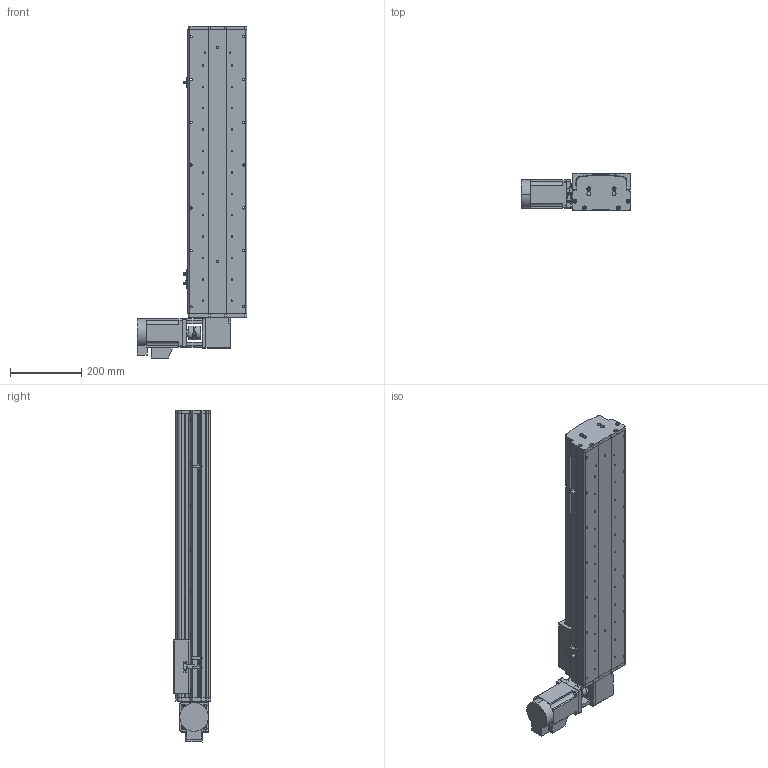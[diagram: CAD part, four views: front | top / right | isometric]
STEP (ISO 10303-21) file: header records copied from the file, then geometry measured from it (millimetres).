
FILE_DESCRIPTION (( 'STEP AP214' ), '1' );
FILE_NAME ('KSD165B-S550-MRT-CM.STEP', '2017-10-17T01:17:22', ( '微软用户' ), ( '微软中国' ), 'SwSTEP 2.0', 'SolidWorks 2014', '' );
FILE_SCHEMA (( 'AUTOMOTIVE_DESIGN' ));
Length unit declared in the file: millimetre
Products named in the file (16): 165宽马达安装板同步带左-改; KSD165模组-同步带防尘盖1-550行程-最新版; KSD165模组同步带底板-550行程-最新; 拸秶雄ん750W侜督萇儂; 165宽安装板同步带带电机座750W; C39ㄜ1419WP; U倰嫖萇假蚾璃; U倰嫖萇EEㄜSX672; 覜茼え68遵圉猾敕; KSD165模组-同步带-防撞垫2; KSD165模组同步带-防撞垫1; KSD165耀郪-ヶ傷啣1-肮祭湍; KSD165模组-后端板1-同步带; 130宽马达安装板1-带电机座750W（1）; KSD165模组-同步带滑动座-最新版; KSD165B-S550-MRT-CM
Assembly tree (19 placements, depth 2):
  KSD165B-S550-MRT-CM
    KSD165模组-同步带滑动座-最新版
    130宽马达安装板1-带电机座750W（1）
    KSD165模组-后端板1-同步带
    KSD165耀郪-ヶ傷啣1-肮祭湍
    KSD165模组同步带-防撞垫1
    KSD165模组-同步带-防撞垫2
    覜茼え68遵圉猾敕
    U倰嫖萇EEㄜSX672  x3
    U倰嫖萇假蚾璃  x3
    C39ㄜ1419WP
    165宽安装板同步带带电机座750W
    拸秶雄ん750W侜督萇儂
    KSD165模组同步带底板-550行程-最新
    KSD165模组-同步带防尘盖1-550行程-最新版
    165宽马达安装板同步带左-改
Bounding box: 307.5 x 104 x 931.06 mm (x, y, z)
Volume: 5855917 mm3; surface area: 1303306.9 mm2
Topology: 20 solids, 21 shells, 1446 faces, 4008 edges, 2593 vertices
Faces by surface type: cylinder 777, plane 575, cone 94
Entity records: 45475 total; most frequent: CARTESIAN_POINT 9535, DIRECTION 7094, ORIENTED_EDGE 6668, EDGE_CURVE 3334, AXIS2_PLACEMENT_3D 2688, VERTEX_POINT 2185, LINE 1718, VECTOR 1718
